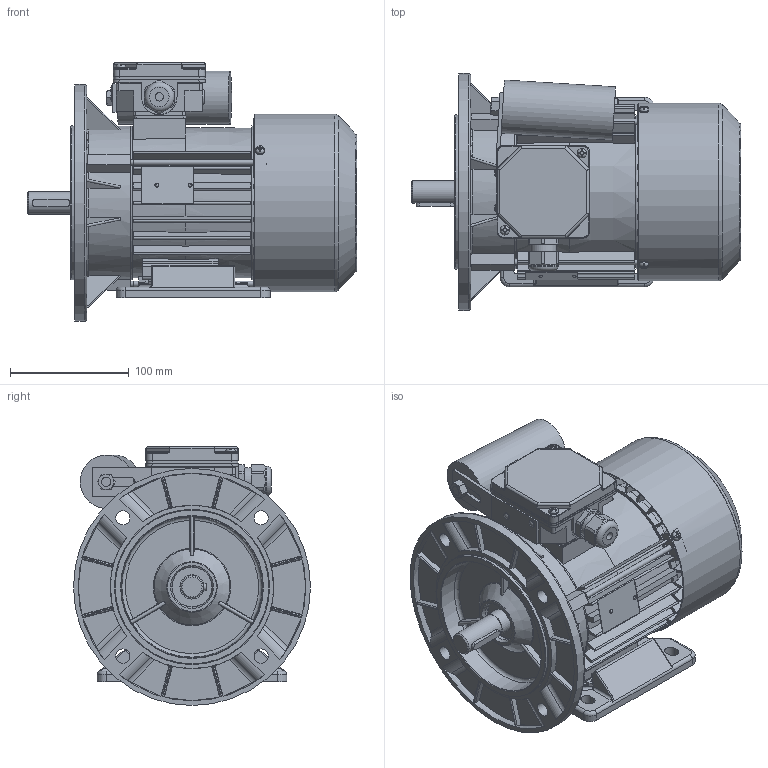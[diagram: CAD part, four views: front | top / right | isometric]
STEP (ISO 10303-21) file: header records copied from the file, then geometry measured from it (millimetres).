
FILE_DESCRIPTION(/* description */ ('Unknown'),/* implementation_level */ '2;1');
FILE_NAME(/* name */ '3SSIEL80-4A',/* time_stamp */ '2024-06-18T07:14:58+02:00',/* author */ ('Unknown'),/* organization */ ('Unknown'),/* preprocessor_version */ 'ST-DEVELOPER v16.7',/* originating_system */ 'Solid Edge',/* authorisation */ 'Unknown');
FILE_SCHEMA (('AUTOMOTIVE_DESIGN {1 0 10303 214 3 1 1}'));
Products named in the file (1): Czêœæ7
Bounding box: 277.78 x 200 x 218.5 mm (x, y, z)
Volume: 1272732.4 mm3; surface area: 586574.2 mm2
Topology: 3 solids, 3 shells, 2686 faces, 7588 edges, 4928 vertices
Faces by surface type: plane 1322, cylinder 895, torus 204, cone 135, bspline 108, sphere 22
Full cylindrical faces by diameter (mm): 2 x2, 2.4 x2, 3 x1, 3.7 x8, 4 x6, 4.3 x2, 4.5 x3, 4.6 x3, 4.8 x2, 5 x5, 5.5 x3, 6 x2, 6.5 x5, 7 x1, 8 x10, 12 x4, 18.998 x1, 19.298 x1, 19.498 x1, 20.298 x2, 20.398 x2, 20.4 x2, 22.3 x1, 25 x1, 25.497 x1, 25.997 x2, 26.097 x1, 26.997 x1, 28.799 x4, 34 x2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
Entity records: 108532 total; most frequent: CARTESIAN_POINT 23390, ORIENTED_EDGE 14460, DIRECTION 13623, EDGE_CURVE 7230, AXIS2_PLACEMENT_3D 4973, VERTEX_POINT 4798, LINE 3677, VECTOR 3677
